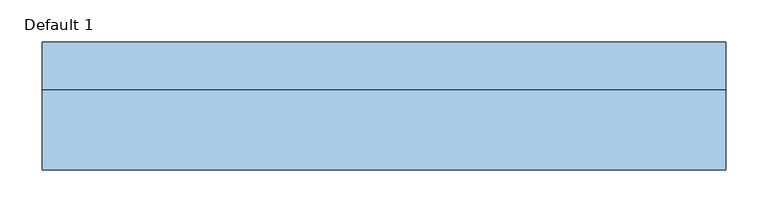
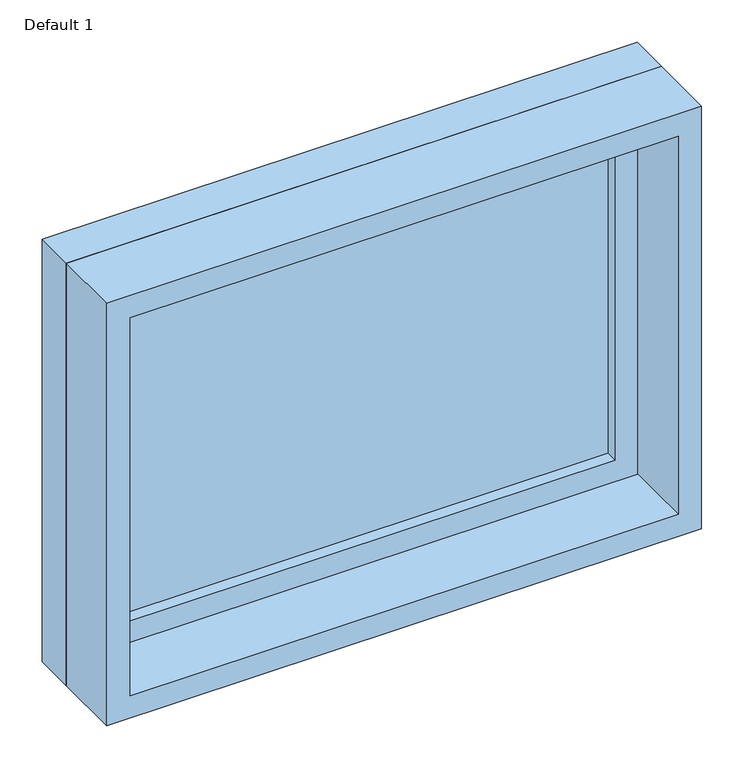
"""IFC4 building model written with IfcOpenShell, lengths in millimetres: window geometry, Planitar-Fixed : Default 1."""

from ifc_helpers import new_model, si_unit, frame, origin, place, context, project, spatial, polyline, outline, extrude, source, transform, mapped, element, save


def default_1_ae74118c(model_context):
    return source(origin(), model_context, "Body", "SweptSolid", [
        extrude(outline(polyline([(1505.0, -387.4), (933.4, -387.4), (933.4, 387.4), (1505.0, 387.4), (1505.0, -387.4)]), holes=[polyline([(1461.0, -343.4), (1461.0, 343.4), (977.4, 343.4), (977.4, -343.4), (1461.0, -343.4)])]), frame((0.0, 32.5, 0.0), z_axis=(0.0, 1.0, 0.0), x_axis=(0.0, 0.0, 1.0)), (0.0, 0.0, 1.0), 44.0),
        extrude(outline(polyline([(1524.0, -406.4), (914.4, -406.4), (914.4, 406.4), (1524.0, 406.4), (1524.0, -406.4)]), holes=[polyline([(1505.0, -387.4), (1505.0, 387.4), (933.4, 387.4), (933.4, -387.4), (1505.0, -387.4)])]), frame((0.0, 32.5, 0.0), z_axis=(0.0, 1.0, 0.0), x_axis=(0.0, 0.0, 1.0)), (0.0, 0.0, 1.0), 56.7),
        extrude(outline(polyline([(1524.0, -406.4), (914.4, -406.4), (914.4, 406.4), (1524.0, 406.4), (1524.0, -406.4)]), holes=[polyline([(1492.0, -374.4), (1492.0, 374.4), (946.4, 374.4), (946.4, -374.4), (1492.0, -374.4)])]), frame((0.0, -63.2, 0.0), z_axis=(0.0, 1.0, 0.0), x_axis=(0.0, 0.0, 1.0)), (0.0, 0.0, 1.0), 95.7),
        extrude(outline(polyline([(-343.4, 60.5), (343.4, 60.5), (343.4, 48.5), (-343.4, 48.5), (-343.4, 60.5)])), frame((0.0, 0.0, 977.4), z_axis=(0.0, 0.0, 1.0), x_axis=(1.0, 0.0, 0.0)), (0.0, 0.0, 1.0), 483.6),
    ])


if __name__ == "__main__":
    model = new_model("IFC4")
    model_context = context("Model", 3, world=origin())
    ifc_project = project(units=[si_unit("LENGTHUNIT", "METRE", prefix="MILLI")], contexts=[model_context])
    site = spatial("IfcSite", under=ifc_project)
    building = spatial("IfcBuilding", under=site)
    placement = place(None, origin())
    default_1_shape = default_1_ae74118c(model_context)
    element("IfcWindow", 1, ObjectType="Planitar-Fixed : Default 1", at=placement, inside=building, context=model_context, shape_type="MappedRepresentation", body=[
        mapped(default_1_shape, transform((0.0, 0.0, 0.0), x_axis=(1.0, 0.0, 0.0), y_axis=(0.0, 1.0, 0.0), z_axis=(0.0, 0.0, 1.0))),
    ])
    save(model, "model.ifc")
